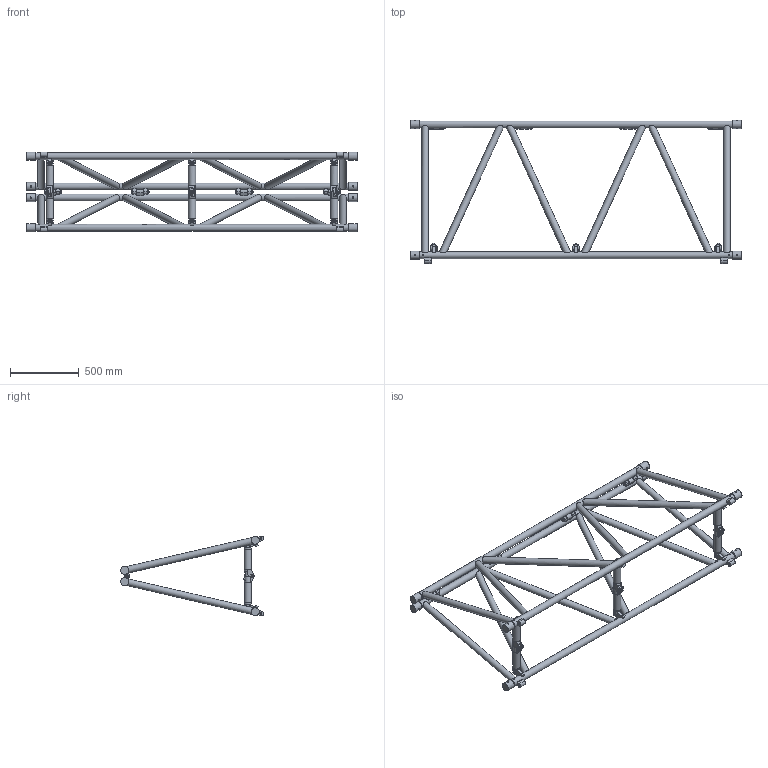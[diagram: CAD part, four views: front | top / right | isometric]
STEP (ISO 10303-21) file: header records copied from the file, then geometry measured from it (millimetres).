
FILE_DESCRIPTION(/* description */ (''),/* implementation_level */ '2;1');
FILE_NAME(/* name */ 'M:\Symbolen_NIEUW\STP\100-er truss\S100F\S100F-L240_111110034.stp',/* time_stamp */ '2017-11-30T15:46:26+01:00',/* author */ ('Kees'),/* organization */ (''),/* preprocessor_version */ 'ST-DEVELOPER v16.13',/* originating_system */ 'Autodesk Inventor 2018',/* authorisation */ '');
FILE_SCHEMA (('AUTOMOTIVE_DESIGN { 1 0 10303 214 3 1 1 }'));
Length unit declared in the file: millimetre
Products named in the file (1): 260006358
Bounding box: 2400 x 1038.68 x 580.51 mm (x, y, z)
Volume: 44926618.9 mm3; surface area: 3856496.9 mm2
Topology: 13 solids, 13 shells, 893 faces, 2289 edges, 1494 vertices
Faces by surface type: plane 596, cylinder 231, cone 66
Full cylindrical faces by diameter (mm): 10 x8, 12 x20, 12.5 x16, 12.8 x12, 13 x20, 17.4 x8, 24 x8, 48.3 x12, 50 x10, 54 x6, 58.8 x8
Entity records: 29152 total; most frequent: CARTESIAN_POINT 7293, DIRECTION 4319, ORIENTED_EDGE 4174, EDGE_CURVE 2087, AXIS2_PLACEMENT_3D 1586, VERTEX_POINT 1456, EDGE_LOOP 1265, LINE 1147
